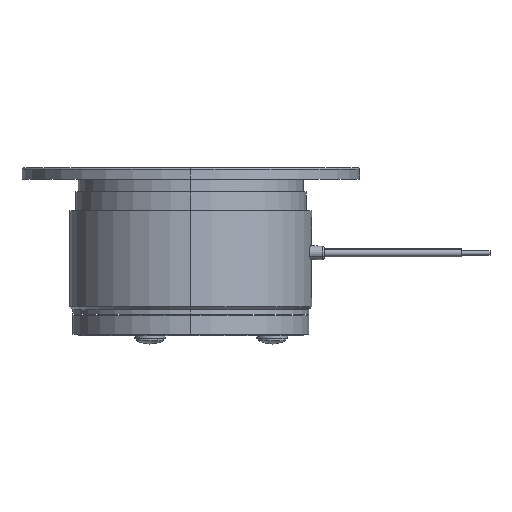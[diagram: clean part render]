
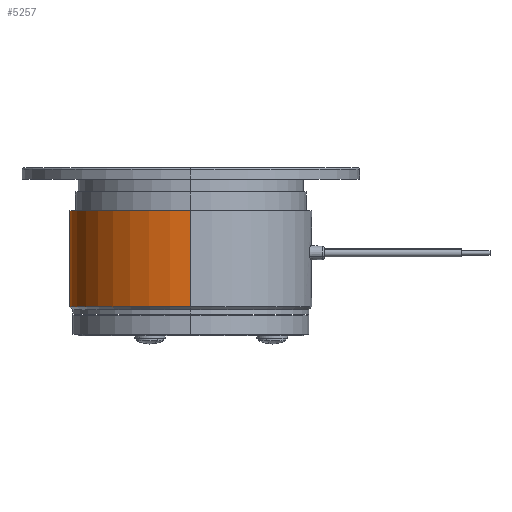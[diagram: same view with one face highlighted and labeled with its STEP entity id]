
A CAD part, left-side view. The second image highlights one B-rep face of the part: STEP entity #5257.
In plain terms, the highlighted cylindrical face has radius 21.5 mm (diameter 43 mm), a partial arc.
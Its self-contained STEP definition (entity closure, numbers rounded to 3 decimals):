
#36 = DIRECTION ( 'NONE',  ( 0., 0., 1. ) ) ;
#74 = CIRCLE ( 'NONE', #1174, 21.5 ) ;
#207 = EDGE_CURVE ( 'NONE', #4981, #2594, #1380, .T. ) ;
#908 = DIRECTION ( 'NONE',  ( 1., 0., 0. ) ) ;
#1174 = AXIS2_PLACEMENT_3D ( 'NONE', #3151, #4647, #3706 ) ;
#1227 = CIRCLE ( 'NONE', #5630, 21.5 ) ;
#1380 = LINE ( 'NONE', #4736, #5544 ) ;
#1526 = LINE ( 'NONE', #3910, #5162 ) ;
#1530 = EDGE_LOOP ( 'NONE', ( #4489, #4571, #2143, #5792 ) ) ;
#1631 = AXIS2_PLACEMENT_3D ( 'NONE', #2345, #36, #908 ) ;
#1907 = DIRECTION ( 'NONE',  ( 0., 0., 1. ) ) ;
#2143 = ORIENTED_EDGE ( 'NONE', *, *, #5888, .F. ) ;
#2345 = CARTESIAN_POINT ( 'NONE',  ( 0., 0., 3.603 ) ) ;
#2497 = DIRECTION ( 'NONE',  ( 0., 0., 1. ) ) ;
#2594 = VERTEX_POINT ( 'NONE', #3329 ) ;
#2741 = CARTESIAN_POINT ( 'NONE',  ( 21.5, 0., -7.6 ) ) ;
#2760 = CARTESIAN_POINT ( 'NONE',  ( -21.5, 0., -24.7 ) ) ;
#3133 = EDGE_CURVE ( 'NONE', #4917, #3726, #1526, .T. ) ;
#3151 = CARTESIAN_POINT ( 'NONE',  ( 0., 0., -24.7 ) ) ;
#3329 = CARTESIAN_POINT ( 'NONE',  ( -21.5, 0., -7.6 ) ) ;
#3350 = CYLINDRICAL_SURFACE ( 'NONE', #1631, 21.5 ) ;
#3693 = DIRECTION ( 'NONE',  ( 1., 0., 0. ) ) ;
#3706 = DIRECTION ( 'NONE',  ( 1., 0., 0. ) ) ;
#3726 = VERTEX_POINT ( 'NONE', #2741 ) ;
#3767 = FACE_OUTER_BOUND ( 'NONE', #1530, .T. ) ;
#3910 = CARTESIAN_POINT ( 'NONE',  ( 21.5, 0., 3.603 ) ) ;
#4038 = DIRECTION ( 'NONE',  ( 0., 0., 1. ) ) ;
#4072 = CARTESIAN_POINT ( 'NONE',  ( 0., 0., -7.6 ) ) ;
#4103 = EDGE_CURVE ( 'NONE', #4917, #4981, #74, .T. ) ;
#4428 = CARTESIAN_POINT ( 'NONE',  ( 21.5, 0., -24.7 ) ) ;
#4489 = ORIENTED_EDGE ( 'NONE', *, *, #4103, .T. ) ;
#4571 = ORIENTED_EDGE ( 'NONE', *, *, #207, .T. ) ;
#4647 = DIRECTION ( 'NONE',  ( 0., 0., 1. ) ) ;
#4736 = CARTESIAN_POINT ( 'NONE',  ( -21.5, 0., 3.603 ) ) ;
#4917 = VERTEX_POINT ( 'NONE', #4428 ) ;
#4981 = VERTEX_POINT ( 'NONE', #2760 ) ;
#5162 = VECTOR ( 'NONE', #2497, 1000. ) ;
#5257 = ADVANCED_FACE ( 'NONE', ( #3767 ), #3350, .T. ) ;
#5544 = VECTOR ( 'NONE', #1907, 1000. ) ;
#5630 = AXIS2_PLACEMENT_3D ( 'NONE', #4072, #4038, #3693 ) ;
#5792 = ORIENTED_EDGE ( 'NONE', *, *, #3133, .F. ) ;
#5888 = EDGE_CURVE ( 'NONE', #3726, #2594, #1227, .T. ) ;
